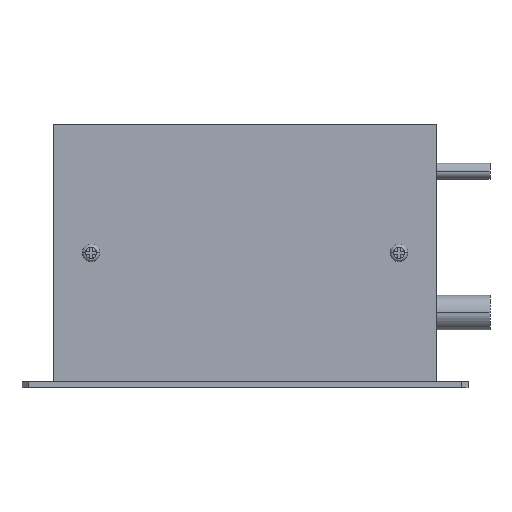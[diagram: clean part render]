
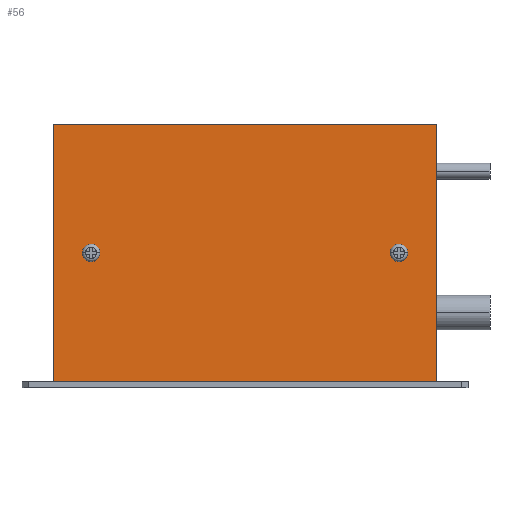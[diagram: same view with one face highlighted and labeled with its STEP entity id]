
A CAD part, front view. The second image highlights one B-rep face of the part: STEP entity #56.
In plain terms, the highlighted planar face has unit normal (0, -1, 0).
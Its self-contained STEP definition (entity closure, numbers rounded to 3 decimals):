
#56 = ADVANCED_FACE('',(#57),#71,.T.);
#57 = FACE_BOUND('',#58,.T.);
#58 = EDGE_LOOP('',(#59,#94,#122,#150));
#59 = ORIENTED_EDGE('',*,*,#60,.T.);
#60 = EDGE_CURVE('',#61,#63,#65,.T.);
#61 = VERTEX_POINT('',#62);
#62 = CARTESIAN_POINT('',(9.245,42.383,-40.));
#63 = VERTEX_POINT('',#64);
#64 = CARTESIAN_POINT('',(9.245,42.383,42.));
#65 = SURFACE_CURVE('',#66,(#70,#82),.PCURVE_S1.);
#66 = LINE('',#67,#68);
#67 = CARTESIAN_POINT('',(9.245,42.383,1.));
#68 = VECTOR('',#69,1.);
#69 = DIRECTION('',(0.,0.,1.));
#70 = PCURVE('',#71,#76);
#71 = PLANE('',#72);
#72 = AXIS2_PLACEMENT_3D('',#73,#74,#75);
#73 = CARTESIAN_POINT('',(-51.755,42.383,1.));
#74 = DIRECTION('',(0.,-1.,0.));
#75 = DIRECTION('',(1.,0.,0.));
#76 = DEFINITIONAL_REPRESENTATION('',(#77),#81);
#77 = LINE('',#78,#79);
#78 = CARTESIAN_POINT('',(61.,0.));
#79 = VECTOR('',#80,1.);
#80 = DIRECTION('',(0.,1.));
#81 = ( GEOMETRIC_REPRESENTATION_CONTEXT(2) 
PARAMETRIC_REPRESENTATION_CONTEXT() REPRESENTATION_CONTEXT('2D SPACE',''
  ) );
#82 = PCURVE('',#83,#88);
#83 = PLANE('',#84);
#84 = AXIS2_PLACEMENT_3D('',#85,#86,#87);
#85 = CARTESIAN_POINT('',(9.245,43.383,1.));
#86 = DIRECTION('',(-1.,0.,0.));
#87 = DIRECTION('',(0.,-1.,0.));
#88 = DEFINITIONAL_REPRESENTATION('',(#89),#93);
#89 = LINE('',#90,#91);
#90 = CARTESIAN_POINT('',(1.,0.));
#91 = VECTOR('',#92,1.);
#92 = DIRECTION('',(0.,1.));
#93 = ( GEOMETRIC_REPRESENTATION_CONTEXT(2) 
PARAMETRIC_REPRESENTATION_CONTEXT() REPRESENTATION_CONTEXT('2D SPACE',''
  ) );
#94 = ORIENTED_EDGE('',*,*,#95,.T.);
#95 = EDGE_CURVE('',#63,#96,#98,.T.);
#96 = VERTEX_POINT('',#97);
#97 = CARTESIAN_POINT('',(-112.755,42.383,42.));
#98 = SURFACE_CURVE('',#99,(#103,#110),.PCURVE_S1.);
#99 = LINE('',#100,#101);
#100 = CARTESIAN_POINT('',(-51.755,42.383,42.));
#101 = VECTOR('',#102,1.);
#102 = DIRECTION('',(-1.,0.,0.));
#103 = PCURVE('',#71,#104);
#104 = DEFINITIONAL_REPRESENTATION('',(#105),#109);
#105 = LINE('',#106,#107);
#106 = CARTESIAN_POINT('',(0.,41.));
#107 = VECTOR('',#108,1.);
#108 = DIRECTION('',(-1.,0.));
#109 = ( GEOMETRIC_REPRESENTATION_CONTEXT(2) 
PARAMETRIC_REPRESENTATION_CONTEXT() REPRESENTATION_CONTEXT('2D SPACE',''
  ) );
#110 = PCURVE('',#111,#116);
#111 = PLANE('',#112);
#112 = AXIS2_PLACEMENT_3D('',#113,#114,#115);
#113 = CARTESIAN_POINT('',(-51.755,43.383,42.));
#114 = DIRECTION('',(0.,0.,-1.));
#115 = DIRECTION('',(0.,1.,0.));
#116 = DEFINITIONAL_REPRESENTATION('',(#117),#121);
#117 = LINE('',#118,#119);
#118 = CARTESIAN_POINT('',(-1.,0.));
#119 = VECTOR('',#120,1.);
#120 = DIRECTION('',(0.,-1.));
#121 = ( GEOMETRIC_REPRESENTATION_CONTEXT(2) 
PARAMETRIC_REPRESENTATION_CONTEXT() REPRESENTATION_CONTEXT('2D SPACE',''
  ) );
#122 = ORIENTED_EDGE('',*,*,#123,.T.);
#123 = EDGE_CURVE('',#96,#124,#126,.T.);
#124 = VERTEX_POINT('',#125);
#125 = CARTESIAN_POINT('',(-112.755,42.383,-40.));
#126 = SURFACE_CURVE('',#127,(#131,#138),.PCURVE_S1.);
#127 = LINE('',#128,#129);
#128 = CARTESIAN_POINT('',(-112.755,42.383,1.));
#129 = VECTOR('',#130,1.);
#130 = DIRECTION('',(0.,0.,-1.));
#131 = PCURVE('',#71,#132);
#132 = DEFINITIONAL_REPRESENTATION('',(#133),#137);
#133 = LINE('',#134,#135);
#134 = CARTESIAN_POINT('',(-61.,0.));
#135 = VECTOR('',#136,1.);
#136 = DIRECTION('',(0.,-1.));
#137 = ( GEOMETRIC_REPRESENTATION_CONTEXT(2) 
PARAMETRIC_REPRESENTATION_CONTEXT() REPRESENTATION_CONTEXT('2D SPACE',''
  ) );
#138 = PCURVE('',#139,#144);
#139 = PLANE('',#140);
#140 = AXIS2_PLACEMENT_3D('',#141,#142,#143);
#141 = CARTESIAN_POINT('',(-112.755,43.383,1.));
#142 = DIRECTION('',(1.,0.,0.));
#143 = DIRECTION('',(0.,1.,0.));
#144 = DEFINITIONAL_REPRESENTATION('',(#145),#149);
#145 = LINE('',#146,#147);
#146 = CARTESIAN_POINT('',(-1.,0.));
#147 = VECTOR('',#148,1.);
#148 = DIRECTION('',(0.,-1.));
#149 = ( GEOMETRIC_REPRESENTATION_CONTEXT(2) 
PARAMETRIC_REPRESENTATION_CONTEXT() REPRESENTATION_CONTEXT('2D SPACE',''
  ) );
#150 = ORIENTED_EDGE('',*,*,#151,.T.);
#151 = EDGE_CURVE('',#124,#61,#152,.T.);
#152 = SURFACE_CURVE('',#153,(#157,#164),.PCURVE_S1.);
#153 = LINE('',#154,#155);
#154 = CARTESIAN_POINT('',(-51.755,42.383,-40.));
#155 = VECTOR('',#156,1.);
#156 = DIRECTION('',(1.,0.,0.));
#157 = PCURVE('',#71,#158);
#158 = DEFINITIONAL_REPRESENTATION('',(#159),#163);
#159 = LINE('',#160,#161);
#160 = CARTESIAN_POINT('',(0.,-41.));
#161 = VECTOR('',#162,1.);
#162 = DIRECTION('',(1.,0.));
#163 = ( GEOMETRIC_REPRESENTATION_CONTEXT(2) 
PARAMETRIC_REPRESENTATION_CONTEXT() REPRESENTATION_CONTEXT('2D SPACE',''
  ) );
#164 = PCURVE('',#165,#170);
#165 = PLANE('',#166);
#166 = AXIS2_PLACEMENT_3D('',#167,#168,#169);
#167 = CARTESIAN_POINT('',(-51.755,43.383,-40.));
#168 = DIRECTION('',(0.,0.,1.));
#169 = DIRECTION('',(0.,-1.,0.));
#170 = DEFINITIONAL_REPRESENTATION('',(#171),#175);
#171 = LINE('',#172,#173);
#172 = CARTESIAN_POINT('',(1.,0.));
#173 = VECTOR('',#174,1.);
#174 = DIRECTION('',(0.,1.));
#175 = ( GEOMETRIC_REPRESENTATION_CONTEXT(2) 
PARAMETRIC_REPRESENTATION_CONTEXT() REPRESENTATION_CONTEXT('2D SPACE',''
  ) );
